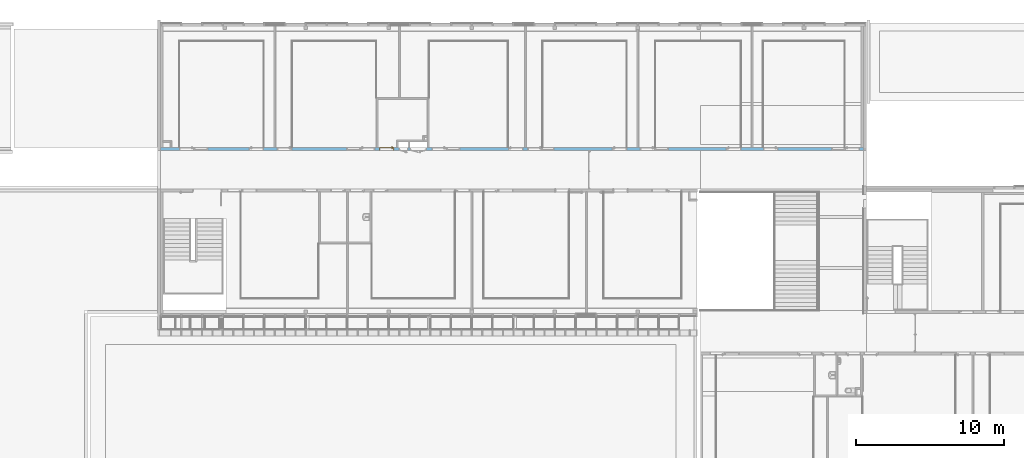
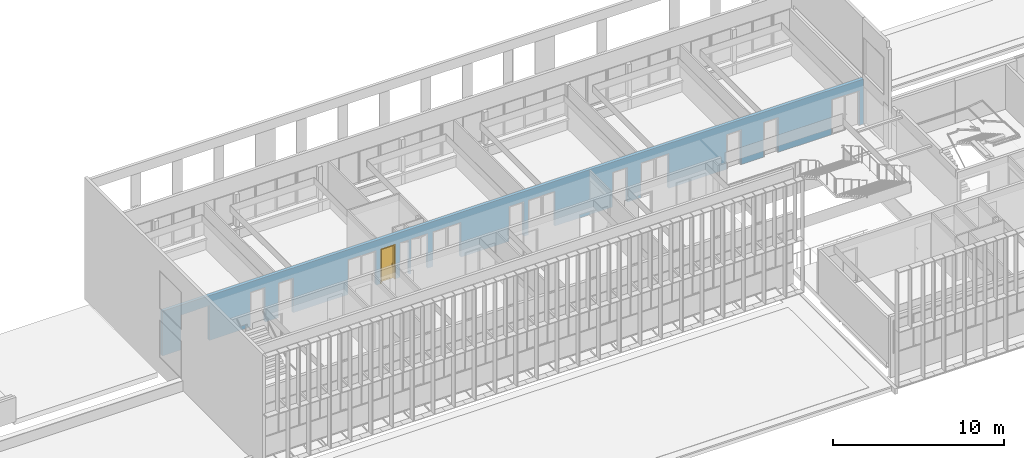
# One storey, part 52 of 106: 1 door, 21 openings, plus 1 element that does not belong to this part.
"""IFC2X3 building model written with IfcOpenShell, lengths in centimetres."""

from ifc_helpers import new_model, entity, si_unit, converted_unit, derived_unit, direction, frame, frame_2d, origin, place, context, subcontext, project, spatial, polyline, rectangle, extrude, clip, bounded_halfspace, faceted_brep, source, transform, mapped, material, material_list, layer, layer_set, layer_usage, type_object, type_shapes, element, fill, save


model = new_model("IFC2X3")

# Units and contexts
model_context = context("Model", 3, precision=0.001, world=origin(), true_north=direction((6.12303176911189e-17, 1.0)))
body_context = subcontext(model_context, "Body", "Model", "MODEL_VIEW")
ifc_project = project(units=[si_unit("LENGTHUNIT", "METRE", prefix="CENTI"), si_unit("AREAUNIT", "SQUARE_METRE"), si_unit("VOLUMEUNIT", "CUBIC_METRE"), converted_unit("PLANEANGLEUNIT", "DEGREE", entity("IfcRatioMeasure", 0.0174532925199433), si_unit("PLANEANGLEUNIT", "RADIAN"), dimensions=[0, 0, 0, 0, 0, 0, 0]), si_unit("MASSUNIT", "GRAM", prefix="KILO"), derived_unit("MASSDENSITYUNIT", [(si_unit("MASSUNIT", "GRAM", prefix="KILO"), 1), (si_unit("LENGTHUNIT", "METRE"), -3)]), si_unit("TIMEUNIT", "SECOND"), si_unit("FREQUENCYUNIT", "HERTZ"), si_unit("THERMODYNAMICTEMPERATUREUNIT", "DEGREE_CELSIUS"), derived_unit("THERMALTRANSMITTANCEUNIT", [(si_unit("MASSUNIT", "GRAM", prefix="KILO"), 1), (si_unit("THERMODYNAMICTEMPERATUREUNIT", "KELVIN"), -1), (si_unit("TIMEUNIT", "SECOND"), -3)]), derived_unit("VOLUMETRICFLOWRATEUNIT", [(si_unit("LENGTHUNIT", "METRE"), 3), (si_unit("TIMEUNIT", "SECOND"), -1)]), si_unit("ELECTRICCURRENTUNIT", "AMPERE"), si_unit("ELECTRICVOLTAGEUNIT", "VOLT"), si_unit("POWERUNIT", "WATT"), si_unit("FORCEUNIT", "NEWTON", prefix="KILO"), si_unit("ILLUMINANCEUNIT", "LUX"), si_unit("LUMINOUSFLUXUNIT", "LUMEN"), si_unit("LUMINOUSINTENSITYUNIT", "CANDELA"), derived_unit("USERDEFINED", [(si_unit("MASSUNIT", "GRAM", prefix="KILO"), -1), (si_unit("LENGTHUNIT", "METRE"), -2), (si_unit("TIMEUNIT", "SECOND"), 3), (si_unit("LUMINOUSFLUXUNIT", "LUMEN"), 1)]), derived_unit("LINEARVELOCITYUNIT", [(si_unit("LENGTHUNIT", "METRE"), 1), (si_unit("TIMEUNIT", "SECOND"), -1)]), si_unit("PRESSUREUNIT", "PASCAL"), derived_unit("USERDEFINED", [(si_unit("LENGTHUNIT", "METRE"), -2), (si_unit("MASSUNIT", "GRAM", prefix="KILO"), 1), (si_unit("TIMEUNIT", "SECOND"), -2)])], contexts=[model_context])

# Site, building, storey
site_placement = place(None, frame((-2781.94577612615, 7442.24238424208, 0.0)))
site = spatial("IfcSite", under=ifc_project, at=site_placement, Name="Default", CompositionType="ELEMENT")
building_placement = place(site_placement, origin())
building = spatial("IfcBuilding", under=site, at=building_placement, CompositionType="ELEMENT")
storey_placement = place(building_placement, frame((0.0, 0.0, 422.0)))
storey = spatial("IfcBuildingStorey", under=building, at=storey_placement, Name="Toiture - Cuisine", CompositionType="ELEMENT", Elevation=421.999999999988)

# Wall, openings, door
ifc_material_1 = material(Name="01 - Maçonnerie")
ifc_layer = layer(ifc_material_1, 20.0)
ifc_layer_set = layer_set([ifc_layer], Name="Mur de base:04 - Structure - béton - 20cm")
ifc_layer_usage = layer_usage(ifc_layer_set, "AXIS2", "NEGATIVE", 10.0)
wall_type = type_object("IfcWallType", Name="Mur de base:04 - Structure - béton - 20cm", PredefinedType="STANDARD", material=ifc_layer_set)
wall_placement = place(building_placement, frame((-8409.49987766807, -820.048500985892, 422.0)))
wall = element("IfcWallStandardCase", 1, at=wall_placement, inside=storey, type_object=wall_type, material=ifc_layer_usage, Name="Mur de base:04 - Structure - béton - 20cm", ObjectType="Mur de base:04 - Structure - béton - 20cm", context=body_context, shape_type="Clipping", body=[
    clip(extrude(rectangle(XDim=4741.49999798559, YDim=20.0, at=frame_2d((2370.74999899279, 2.04281036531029e-14), x_axis=(-1.0, 0.0))), origin(), (0.0, 0.0, 1.0), 321.0), bounded_halfspace(frame((4741.49999798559, -10.0, 321.0), z_axis=(0.0, 0.0, -1.0), x_axis=(0.0, 1.0, 0.0)), True, frame((4741.49999798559, -10.0, 321.0)), polyline([(0.0, 0.0), (0.0, 20.0), (-15.3000000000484, 20.0), (-125.300000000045, 20.0), (-127.300000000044, 20.0), (-675.800000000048, 20.0), (-677.800000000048, 20.0), (-745.800000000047, 20.0), (-755.800000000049, 20.0), (-825.800000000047, 20.0), (-827.800000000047, 20.0), (-1403.80000000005, 20.0), (-1405.80000000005, 20.0), (-1516.49999791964, 20.0), (-1526.49999791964, 20.0), (-1595.78709704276, 20.0), (-1597.78709704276, 20.0), (-2163.80000000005, 20.0), (-2165.80000000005, 20.0), (-2275.80000000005, 20.0), (-2285.80000000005, 20.0), (-2395.80000000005, 20.0), (-2397.80000000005, 20.0), (-2931.80000000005, 20.0), (-2941.80000000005, 20.0), (-3060.80000000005, 20.0), (-3070.80000000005, 20.0), (-3137.80000000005, 20.0), (-3147.80000000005, 20.0), (-3275.80000000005, 20.0), (-3285.80000000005, 20.0), (-3416.49999791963, 20.0), (-3535.80000000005, 20.0), (-3545.80000000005, 20.0), (-3611.80000000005, 20.0), (-3853.80000000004, 20.0), (-3855.80000000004, 20.0), (-3965.80000000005, 20.0), (-3975.80000000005, 20.0), (-4044.30000000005, 20.0), (-4046.30000000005, 20.0), (-4614.19999798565, 20.0), (-4616.19999798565, 20.0), (-4666.19999798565, 20.0), (-4676.19999798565, 20.0), (-4726.19999798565, 20.0), (-4741.49999798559, 20.0), (-4741.49999798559, 0.0), (-1854.0, 0.0), (-1844.0, 0.0), (-1840.0, 0.0), (0.0, 0.0)]))),
])
opening_1_placement = place(wall_placement, frame((1669.50000006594, 10.0, 0.0)))
element("IfcOpeningElement", 2, at=opening_1_placement, cuts=wall, Name="Int. Simple:PP Placard (0.55m x 2.50m):1", ObjectType="Opening", context=body_context, shape_type="SweptSolid", body=[
    extrude(rectangle(XDim=248.500000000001, YDim=61.9999999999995, at=frame_2d((124.250000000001, 30.9999999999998), x_axis=(1.0, 0.0))), frame((0.0, 0.0, 0.0), z_axis=(0.0, -1.0, 0.0), x_axis=(0.0, 0.0, 1.0)), (0.0, 0.0, 1.0), 20.0),
])
opening_2_placement = place(wall_placement, frame((1794.50000006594, 10.0, 0.0)))
element("IfcOpeningElement", 3, at=opening_2_placement, cuts=wall, Name="Int. Double:PP Placard (1.05m x 2.50m):1", ObjectType="Opening", context=body_context, shape_type="SweptSolid", body=[
    extrude(rectangle(XDim=248.500000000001, YDim=112.0, at=frame_2d((124.250000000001, 56.0000000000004), x_axis=(1.0, 0.0))), frame((0.0, 0.0, 0.0), z_axis=(0.0, -1.0, 0.0), x_axis=(0.0, 0.0, 1.0)), (0.0, 0.0, 1.0), 20.0),
])
opening_3_placement = place(wall_placement, frame((126.799999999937, -10.0, 0.0)))
element("IfcOpeningElement", 4, at=opening_3_placement, cuts=wall, Name="Int. Simple:PV (0.93m x 2.50m):1", ObjectType="Opening", context=body_context, shape_type="SweptSolid", body=[
    extrude(rectangle(XDim=248.500000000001, YDim=99.9999999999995, at=frame_2d((124.250000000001, 50.0), x_axis=(1.0, 0.0))), frame((0.0, 0.0, 0.0), z_axis=(0.0, 1.0, 0.0), x_axis=(0.0, 0.0, 1.0)), (0.0, 0.0, 1.0), 20.0),
])
opening_4_placement = place(wall_placement, frame((595.699997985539, -10.0, 0.0)))
element("IfcOpeningElement", 5, at=opening_4_placement, cuts=wall, Name="Int. Simple:PV (0.93m x 2.50m):1", ObjectType="Opening", context=body_context, shape_type="SweptSolid", body=[
    extrude(rectangle(XDim=248.500000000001, YDim=99.9999999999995, at=frame_2d((124.250000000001, 49.9999999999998), x_axis=(1.0, 0.0))), frame((0.0, 0.0, 0.0), z_axis=(0.0, 1.0, 0.0), x_axis=(0.0, 0.0, 1.0)), (0.0, 0.0, 1.0), 20.0),
])
opening_5_placement = place(wall_placement, frame((785.699997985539, -10.0, 0.0)))
element("IfcOpeningElement", 6, at=opening_5_placement, cuts=wall, Name="Int. Simple:PV (0.93m x 2.50m):1", ObjectType="Opening", context=body_context, shape_type="SweptSolid", body=[
    extrude(rectangle(XDim=248.500000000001, YDim=99.9999999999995, at=frame_2d((124.250000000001, 50.0), x_axis=(1.0, 0.0))), frame((0.0, 0.0, 0.0), z_axis=(0.0, 1.0, 0.0), x_axis=(0.0, 0.0, 1.0)), (0.0, 0.0, 1.0), 20.0),
])
opening_6_placement = place(wall_placement, frame((1345.69999798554, -10.0, 0.0)))
element("IfcOpeningElement", 7, at=opening_6_placement, cuts=wall, Name="Int. Simple:PV (0.93m x 2.50m):1", ObjectType="Opening", context=body_context, shape_type="SweptSolid", body=[
    extrude(rectangle(XDim=248.500000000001, YDim=99.9999999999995, at=frame_2d((124.250000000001, 49.9999999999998), x_axis=(1.0, 0.0))), frame((0.0, 0.0, 0.0), z_axis=(0.0, 1.0, 0.0), x_axis=(0.0, 0.0, 1.0)), (0.0, 0.0, 1.0), 20.0),
])
opening_7_placement = place(wall_placement, frame((1475.69999798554, -10.0, 0.0)))
opening_7 = element("IfcOpeningElement", 8, at=opening_7_placement, cuts=wall, Name="Int. Simple:PP simple (0.93m x 2.50m):1", ObjectType="Opening", context=body_context, shape_type="SweptSolid", body=[
    extrude(rectangle(XDim=248.500000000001, YDim=99.9999999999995, at=frame_2d((124.250000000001, 50.0), x_axis=(1.0, 0.0))), frame((0.0, 0.0, 0.0), z_axis=(0.0, 1.0, 0.0), x_axis=(0.0, 0.0, 1.0)), (0.0, 0.0, 1.0), 20.0),
])
opening_8_placement = place(wall_placement, frame((1829.69999798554, -10.0, 0.0)))
element("IfcOpeningElement", 9, at=opening_8_placement, cuts=wall, Name="Int. Simple:PV (0.93m x 2.50m):1", ObjectType="Opening", context=body_context, shape_type="SweptSolid", body=[
    extrude(rectangle(XDim=248.500000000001, YDim=99.9999999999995, at=frame_2d((124.250000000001, 50.0), x_axis=(1.0, 0.0))), frame((0.0, 0.0, 0.0), z_axis=(0.0, 1.0, 0.0), x_axis=(0.0, 0.0, 1.0)), (0.0, 0.0, 1.0), 20.0),
])
opening_9_placement = place(wall_placement, frame((2345.69999798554, -10.0, 0.0)))
element("IfcOpeningElement", 10, at=opening_9_placement, cuts=wall, Name="Int. Simple:PV (0.93m x 2.50m):1", ObjectType="Opening", context=body_context, shape_type="SweptSolid", body=[
    extrude(rectangle(XDim=248.500000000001, YDim=99.9999999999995, at=frame_2d((124.250000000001, 49.9999999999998), x_axis=(1.0, 0.0))), frame((0.0, 0.0, 0.0), z_axis=(0.0, 1.0, 0.0), x_axis=(0.0, 0.0, 1.0)), (0.0, 0.0, 1.0), 20.0),
])
opening_10_placement = place(wall_placement, frame((2475.69999798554, -10.0, 0.0)))
element("IfcOpeningElement", 11, at=opening_10_placement, cuts=wall, Name="Int. Simple:PV (0.93m x 2.50m):1", ObjectType="Opening", context=body_context, shape_type="SweptSolid", body=[
    extrude(rectangle(XDim=248.500000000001, YDim=99.9999999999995, at=frame_2d((124.250000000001, 50.0), x_axis=(1.0, 0.0))), frame((0.0, 0.0, 0.0), z_axis=(0.0, 1.0, 0.0), x_axis=(0.0, 0.0, 1.0)), (0.0, 0.0, 1.0), 20.0),
])
opening_11_placement = place(wall_placement, frame((3045.69999798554, -10.0, 0.0)))
element("IfcOpeningElement", 12, at=opening_11_placement, cuts=wall, Name="Int. Simple:PV (0.93m x 2.50m):1", ObjectType="Opening", context=body_context, shape_type="SweptSolid", body=[
    extrude(rectangle(XDim=248.500000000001, YDim=99.9999999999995, at=frame_2d((124.250000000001, 49.9999999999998), x_axis=(1.0, 0.0))), frame((0.0, 0.0, 0.0), z_axis=(0.0, 1.0, 0.0), x_axis=(0.0, 0.0, 1.0)), (0.0, 0.0, 1.0), 20.0),
])
opening_12_placement = place(wall_placement, frame((3235.69999798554, -10.0, 0.0)))
element("IfcOpeningElement", 13, at=opening_12_placement, cuts=wall, Name="Int. Simple:PV (0.93m x 2.50m):1", ObjectType="Opening", context=body_context, shape_type="SweptSolid", body=[
    extrude(rectangle(XDim=248.500000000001, YDim=99.9999999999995, at=frame_2d((124.250000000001, 50.0), x_axis=(1.0, 0.0))), frame((0.0, 0.0, 0.0), z_axis=(0.0, 1.0, 0.0), x_axis=(0.0, 0.0, 1.0)), (0.0, 0.0, 1.0), 20.0),
])
opening_13_placement = place(wall_placement, frame((3815.69999798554, -10.0, 0.0)))
element("IfcOpeningElement", 14, at=opening_13_placement, cuts=wall, Name="Int. Simple:PV (0.93m x 2.50m):1", ObjectType="Opening", context=body_context, shape_type="SweptSolid", body=[
    extrude(rectangle(XDim=248.500000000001, YDim=99.9999999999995, at=frame_2d((124.250000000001, 49.9999999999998), x_axis=(1.0, 0.0))), frame((0.0, 0.0, 0.0), z_axis=(0.0, 1.0, 0.0), x_axis=(0.0, 0.0, 1.0)), (0.0, 0.0, 1.0), 20.0),
])
opening_14_placement = place(wall_placement, frame((4065.69999798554, -10.0, 0.0)))
element("IfcOpeningElement", 15, at=opening_14_placement, cuts=wall, Name="Int. Simple:PV (0.93m x 2.50m):1", ObjectType="Opening", context=body_context, shape_type="SweptSolid", body=[
    extrude(rectangle(XDim=248.500000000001, YDim=99.9999999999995, at=frame_2d((124.250000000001, 50.0), x_axis=(1.0, 0.0))), frame((0.0, 0.0, 0.0), z_axis=(0.0, 1.0, 0.0), x_axis=(0.0, 0.0, 1.0)), (0.0, 0.0, 1.0), 20.0),
])
opening_15_placement = place(wall_placement, frame((4616.19999798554, -10.0, 0.0)))
element("IfcOpeningElement", 16, at=opening_15_placement, cuts=wall, Name="Int. Simple:PV (0.93m x 2.50m):1", ObjectType="Opening", context=body_context, shape_type="SweptSolid", body=[
    extrude(rectangle(XDim=248.500000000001, YDim=99.9999999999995, at=frame_2d((124.250000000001, 49.9999999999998), x_axis=(1.0, 0.0))), frame((0.0, 0.0, 0.0), z_axis=(0.0, 1.0, 0.0), x_axis=(0.0, 0.0, 1.0)), (0.0, 0.0, 1.0), 20.0),
])
opening_16_placement = place(wall_placement, frame((1255.69999798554, -10.0, 0.0)))
element("IfcOpeningElement", 17, at=opening_16_placement, cuts=wall, Name="châssis intérieur vitré:châssis intérieur vitré (h=270) R+1:1", ObjectType="Opening", context=body_context, shape_type="SweptSolid", body=[
    extrude(rectangle(XDim=250.0, YDim=89.9999999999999, at=frame_2d((125.0, 45.0), x_axis=(1.0, 0.0))), frame((0.0, 0.0, 0.0), z_axis=(0.0, 1.0, 0.0), x_axis=(0.0, 0.0, 1.0)), (0.0, 0.0, 1.0), 20.0),
])
opening_17_placement = place(wall_placement, frame((1929.69999798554, -10.0, 0.0)))
element("IfcOpeningElement", 18, at=opening_17_placement, cuts=wall, Name="châssis intérieur vitré:châssis intérieur vitré (h=270) R+1:1", ObjectType="Opening", context=body_context, shape_type="SweptSolid", body=[
    extrude(rectangle(XDim=250.0, YDim=89.9999999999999, at=frame_2d((125.0, 45.0), x_axis=(1.0, 0.0))), frame((0.0, 0.0, 0.0), z_axis=(0.0, 1.0, 0.0), x_axis=(0.0, 0.0, 1.0)), (0.0, 0.0, 1.0), 20.0),
])
opening_18_placement = place(wall_placement, frame((4526.19999798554, -10.0, 0.0)))
element("IfcOpeningElement", 19, at=opening_18_placement, cuts=wall, Name="châssis intérieur vitré:châssis intérieur vitré (h=270) R+1:1", ObjectType="Opening", context=body_context, shape_type="SweptSolid", body=[
    extrude(rectangle(XDim=250.0, YDim=89.9999999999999, at=frame_2d((125.0, 45.0000000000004), x_axis=(1.0, 0.0))), frame((0.0, 0.0, 0.0), z_axis=(0.0, 1.0, 0.0), x_axis=(0.0, 0.0, 1.0)), (0.0, 0.0, 1.0), 20.0),
])
opening_19_placement = place(wall_placement, frame((3335.69999798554, -10.0, 0.0)))
element("IfcOpeningElement", 20, at=opening_19_placement, cuts=wall, Name="châssis intérieur vitré:châssis intérieur vitré (h=270) R+1:1", ObjectType="Opening", context=body_context, shape_type="SweptSolid", body=[
    extrude(rectangle(XDim=250.0, YDim=89.9999999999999, at=frame_2d((125.0, 45.0000000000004), x_axis=(1.0, 0.0))), frame((0.0, 0.0, 0.0), z_axis=(0.0, 1.0, 0.0), x_axis=(0.0, 0.0, 1.0)), (0.0, 0.0, 1.0), 20.0),
])
opening_20_placement = place(wall_placement, frame((2565.69999798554, -10.0, 0.0)))
element("IfcOpeningElement", 21, at=opening_20_placement, cuts=wall, Name="châssis intérieur vitré:châssis intérieur vitré (h=270) R+1:1", ObjectType="Opening", context=body_context, shape_type="SweptSolid", body=[
    extrude(rectangle(XDim=250.0, YDim=89.9999999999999, at=frame_2d((125.0, 45.0000000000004), x_axis=(1.0, 0.0))), frame((0.0, 0.0, 0.0), z_axis=(0.0, 1.0, 0.0), x_axis=(0.0, 0.0, 1.0)), (0.0, 0.0, 1.0), 20.0),
])
opening_21_placement = place(wall_placement, frame((226.799999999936, -10.0, 0.0)))
element("IfcOpeningElement", 22, at=opening_21_placement, cuts=wall, Name="châssis intérieur vitré:châssis intérieur vitré (h=270) R+1:1", ObjectType="Opening", context=body_context, shape_type="SweptSolid", body=[
    extrude(rectangle(XDim=250.0, YDim=91.4999999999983, at=frame_2d((125.0, 45.7499999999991), x_axis=(1.0, 0.0))), frame((0.0, 0.0, 0.0), z_axis=(0.0, 1.0, 0.0), x_axis=(0.0, 0.0, 1.0)), (0.0, 0.0, 1.0), 20.0),
])
ifc_material_2 = material(Name="Finition Peinture - Blanc satiné")
ifc_material_3 = material(Name="Bois - Panneau de porte")
ifc_material_4 = material(Name="Bois - Cadre de porte")
ifc_material_list_1 = material_list([ifc_material_2, ifc_material_3, ifc_material_4])
ifc_material_list_2 = material_list([ifc_material_2, ifc_material_3, ifc_material_4])
door_style = type_object("IfcDoorStyle", Name="PP simple (0.93m x 2.50m)", ConstructionType="NOTDEFINED", OperationType="SINGLE_SWING_LEFT", ParameterTakesPrecedence=False, Sizeable=False, material=ifc_material_list_2)
shared_shape = source(origin(), body_context, "Body", "Brep", [
    faceted_brep([(10.5352761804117, -0.500000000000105, 86.6003983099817), (11.5000000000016, -0.500000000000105, 87.0), (11.5000000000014, -0.500000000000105, 108.0), (10.5352761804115, -0.500000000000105, 108.399601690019), (9.50000000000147, -0.500000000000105, 108.535898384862), (8.46472381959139, -0.500000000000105, 108.399601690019), (7.50000000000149, -0.500000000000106, 108.0), (7.50000000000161, -0.500000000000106, 87.0), (8.46472381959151, -0.500000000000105, 86.6003983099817), (9.50000000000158, -0.500000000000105, 86.464101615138), (10.5352761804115, 0.0, 108.399601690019), (11.5000000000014, 0.0, 108.0), (11.5000000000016, 0.0, 87.0), (10.5352761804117, 0.0, 86.6003983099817), (9.50000000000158, 0.0, 86.464101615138), (8.46472381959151, 0.0, 86.6003983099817), (7.50000000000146, 0.0, 87.0), (7.50000000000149, 0.0, 108.0), (8.46472381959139, 0.0, 108.399601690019), (9.50000000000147, 0.0, 108.535898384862)], [[[0, 1, 2, 3, 4, 5, 6, 7, 8, 9]], [[10, 11, 12, 13, 14, 15, 16, 17, 18, 19]], [[16, 15, 8, 7]], [[8, 15, 14, 9]], [[14, 13, 0, 9]], [[13, 12, 1, 0]], [[2, 1, 12, 11]], [[11, 10, 3, 2]], [[3, 10, 19, 4]], [[19, 18, 5, 4]], [[18, 17, 6, 5]], [[7, 6, 17, 16]]]),
    faceted_brep([(10.5352761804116, 4.0, 86.6003983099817), (11.5000000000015, 4.0, 87.0), (11.5000000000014, 4.0, 108.0), (10.5352761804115, 4.0, 108.399601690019), (9.50000000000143, 4.0, 108.535898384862), (8.46472381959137, 4.0, 108.399601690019), (7.50000000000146, 4.0, 108.0), (7.50000000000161, 4.0, 87.0), (8.46472381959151, 4.0, 86.6003983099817), (9.50000000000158, 4.0, 86.464101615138), (10.5352761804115, 4.49999999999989, 108.399601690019), (11.5000000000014, 4.49999999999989, 108.0), (11.5000000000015, 4.49999999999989, 87.0), (10.5352761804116, 4.49999999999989, 86.6003983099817), (9.50000000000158, 4.49999999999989, 86.464101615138), (8.46472381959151, 4.49999999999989, 86.6003983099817), (7.50000000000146, 4.49999999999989, 87.0), (7.50000000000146, 4.49999999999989, 108.0), (8.46472381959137, 4.49999999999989, 108.399601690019), (9.50000000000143, 4.49999999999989, 108.535898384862)], [[[0, 1, 2, 3, 4, 5, 6, 7, 8, 9]], [[10, 11, 12, 13, 14, 15, 16, 17, 18, 19]], [[11, 10, 3, 2]], [[3, 10, 19, 4]], [[19, 18, 5, 4]], [[18, 17, 6, 5]], [[7, 6, 17, 16]], [[16, 15, 8, 7]], [[8, 15, 14, 9]], [[14, 13, 0, 9]], [[13, 12, 1, 0]], [[2, 1, 12, 11]]]),
    faceted_brep([(9.29747013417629, -0.500000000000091, 100.778044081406), (9.70252986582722, -0.500000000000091, 100.778044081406), (10.1000000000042, -0.500000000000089, 100.699999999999), (10.1000000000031, -0.500000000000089, 99.3000000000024), (9.7025298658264, -0.500000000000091, 99.2219559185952), (9.29747013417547, -0.500000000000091, 99.221955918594), (8.8999999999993, -0.500000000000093, 99.2999999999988), (8.89999999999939, -0.500000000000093, 100.7), (8.89999999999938, -3.26509507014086, 100.7), (9.29747013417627, -3.10045754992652, 100.778044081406), (10.9023585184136, -4.70534593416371, 100.778044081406), (11.0701397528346, -4.30028620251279, 100.778044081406), (9.7025298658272, -2.93267631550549, 100.778044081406), (10.1000000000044, -2.76803879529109, 100.7), (10.1000000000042, -2.76803879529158, 99.3000000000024), (9.7025298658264, -2.93267631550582, 99.2219559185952), (11.0701397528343, -4.30028620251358, 99.2219559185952), (10.9023585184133, -4.70534593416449, 99.221955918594), (9.29747013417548, -3.10045754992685, 99.221955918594), (8.89999999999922, -3.26509507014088, 99.2999999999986), (10.7377209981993, -5.10281606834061, 100.7), (11.2347772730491, -3.90281606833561, 100.7), (11.2347772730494, -3.90281606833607, 99.3000000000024), (10.7377209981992, -5.10281606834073, 99.2999999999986), (19.5018640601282, -5.1028160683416, 99.2999999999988), (19.5018640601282, -4.70534593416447, 99.221955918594), (19.5018640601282, -4.30028620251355, 99.2219559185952), (19.5018640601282, -3.90281606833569, 99.3000000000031), (19.5018640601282, -3.90281606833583, 100.7), (19.5018640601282, -4.30028620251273, 100.778044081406), (19.5018640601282, -4.70534593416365, 100.778044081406), (19.5018640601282, -5.10281606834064, 100.699999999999), (14.7307697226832, -5.10281606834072, 100.7), (15.2860019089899, -4.5028160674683, 100.78786867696), (15.3683206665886, -3.9028160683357, 100.7), (15.3683206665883, -3.90281606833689, 99.3000000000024), (15.2860018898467, -4.50281607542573, 99.2121313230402), (14.7307700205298, -5.10281606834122, 99.2999999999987)], [[[0, 1, 2, 3, 4, 5, 6, 7]], [[8, 9, 0, 7]], [[9, 10, 11, 12, 1, 0]], [[12, 13, 2, 1]], [[3, 2, 13, 14]], [[14, 15, 4, 3]], [[15, 16, 17, 18, 5, 4]], [[18, 19, 6, 5]], [[7, 6, 19, 8]], [[20, 10, 9, 8]], [[11, 21, 13, 12]], [[14, 13, 21, 22]], [[22, 16, 15, 14]], [[17, 23, 19, 18]], [[8, 19, 23, 20]], [[24, 25, 26, 27, 28, 29, 30, 31]], [[32, 30, 33]], [[31, 30, 32]], [[10, 20, 32]], [[33, 34, 11]], [[21, 11, 34]], [[34, 29, 28]], [[30, 29, 33]], [[29, 34, 33]], [[10, 32, 33]], [[10, 33, 11]], [[22, 21, 34, 28, 27, 35]], [[35, 26, 36]], [[37, 36, 25]], [[22, 35, 16]], [[35, 27, 26]], [[24, 37, 25]], [[23, 17, 37]], [[37, 17, 36]], [[17, 16, 36]], [[16, 35, 36]], [[25, 36, 26]], [[20, 23, 37, 24, 31, 32]]]),
    faceted_brep([(9.29747013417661, 4.49999999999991, 100.778044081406), (8.89999999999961, 4.4999999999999, 100.7), (8.89999999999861, 4.4999999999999, 99.2999999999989), (9.29747013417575, 4.49999999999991, 99.221955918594), (9.70252986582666, 4.49999999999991, 99.2219559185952), (10.1000000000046, 4.49999999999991, 99.3000000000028), (10.1000000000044, 4.49999999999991, 100.7), (9.70252986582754, 4.49999999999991, 100.778044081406), (10.1000000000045, 6.7485204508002, 99.3000000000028), (10.1000000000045, 6.74852045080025, 100.7), (9.70252986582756, 6.91315797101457, 100.778044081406), (11.083890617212, 8.29451872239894, 100.778044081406), (10.916109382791, 8.69957845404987, 100.778044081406), (9.29747013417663, 7.0809392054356, 100.778044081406), (8.89999999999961, 7.24557672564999, 100.7), (8.89999999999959, 7.2455767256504, 99.2999999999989), (9.29747013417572, 7.08093920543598, 99.221955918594), (10.9161093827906, 8.69957845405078, 99.221955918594), (11.0838906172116, 8.29451872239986, 99.2219559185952), (9.70252986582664, 6.91315797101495, 99.2219559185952), (11.2485281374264, 7.89704858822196, 99.3000000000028), (11.2485281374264, 7.89704858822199, 100.7), (10.7514718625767, 9.09704858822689, 100.7), (10.7514718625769, 9.0970485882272, 99.2999999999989), (19.5045783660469, 7.89704858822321, 99.3000000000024), (19.5045783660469, 8.29451872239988, 99.2219559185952), (19.5045783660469, 8.6995784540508, 99.221955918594), (19.5045783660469, 9.09704858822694, 99.2999999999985), (19.5045783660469, 9.09704858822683, 100.7), (19.5045783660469, 8.69957845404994, 100.778044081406), (19.5045783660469, 8.29451872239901, 100.778044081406), (19.5045783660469, 7.89704858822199, 100.7), (15.3765520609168, 7.89704858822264, 99.3000000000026), (15.3765532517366, 7.89704858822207, 100.7), (15.294234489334, 8.49704858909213, 100.78786867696), (14.7445205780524, 9.09704858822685, 100.7), (14.7445204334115, 9.09704858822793, 99.2999999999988), (15.2942345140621, 8.49704858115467, 99.2121313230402)], [[[0, 1, 2, 3, 4, 5, 6, 7]], [[6, 5, 8, 9]], [[9, 10, 7, 6]], [[10, 11, 12, 13, 0, 7]], [[13, 14, 1, 0]], [[2, 1, 14, 15]], [[15, 16, 3, 2]], [[16, 17, 18, 19, 4, 3]], [[19, 8, 5, 4]], [[9, 8, 20, 21]], [[21, 11, 10, 9]], [[12, 22, 14, 13]], [[15, 14, 22, 23]], [[23, 17, 16, 15]], [[18, 20, 8, 19]], [[24, 25, 26, 27, 28, 29, 30, 31]], [[21, 20, 32, 24, 31, 33]], [[33, 30, 34]], [[35, 34, 29]], [[21, 33, 11]], [[33, 31, 30]], [[28, 35, 29]], [[22, 12, 35]], [[35, 12, 34]], [[12, 11, 34]], [[11, 33, 34]], [[29, 34, 30]], [[22, 35, 28, 27, 36, 23]], [[36, 26, 37]], [[27, 26, 36]], [[17, 23, 36]], [[37, 32, 18]], [[20, 18, 32]], [[32, 25, 24]], [[26, 25, 37]], [[25, 32, 37]], [[17, 36, 37]], [[17, 37, 18]]]),
    faceted_brep([(3.50000000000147, 4.0, 245.0), (96.5000000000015, 4.0, 245.0), (96.5000000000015, 4.0, 0.0), (3.50000000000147, 4.0, 0.0), (3.50000000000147, 0.0, 245.0), (3.50000000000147, 0.0, 0.0), (96.5000000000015, 0.0, 0.0), (96.5000000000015, 0.0, 245.0)], [[[0, 1, 2, 3]], [[4, 5, 6, 7]], [[1, 0, 4, 7]], [[2, 1, 7, 6]], [[3, 2, 6, 5]], [[0, 3, 5, 4]]]),
    faceted_brep([(0.0, 20.0, 0.0), (-1.50000000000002, 20.0, 0.0), (-1.50000000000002, 20.5000000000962, 0.0), (5.0, 20.5000000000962, 0.0), (5.0, 4.0, 0.0), (3.50000000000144, 4.0, 0.0), (3.50000000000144, -0.500000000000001, 0.0), (-1.50000000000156, -0.500000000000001, 0.0), (-1.50000000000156, 0.0, 0.0), (0.0, 0.0, 0.0), (0.0, 0.0, 248.500000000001), (0.0, 20.0, 248.500000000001), (100.0, 20.0, 248.500000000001), (100.0, 20.0, 0.0), (101.5, 20.0, 0.0), (101.5, 20.0, 250.0), (-1.50000000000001, 20.0, 250.0), (5.0, 20.5000000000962, 243.5), (5.0, 4.0, 243.5), (95.0, 4.0, 243.5), (95.0, 4.0, 0.0), (96.499999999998, 4.0, 0.0), (96.499999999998, 4.0, 245.0), (3.50000000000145, 4.0, 245.0), (100.0, 0.0, 248.500000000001), (100.0, 0.0, 0.0), (101.500000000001, 0.0, 0.0), (101.500000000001, -0.500000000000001, 0.0), (96.499999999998, -0.500000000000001, 0.0), (95.0, 20.5000000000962, 0.0), (101.5, 20.5000000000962, 0.0), (95.0, 20.5000000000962, 243.5), (3.50000000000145, -0.500000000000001, 245.0), (96.499999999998, -0.500000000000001, 245.0), (101.500000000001, -0.500000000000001, 250.0), (-1.50000000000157, -0.500000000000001, 250.0), (-1.50000000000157, 0.0, 250.0), (101.500000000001, 0.0, 250.0), (-1.50000000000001, 20.5000000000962, 250.0), (101.5, 20.5000000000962, 250.0)], [[[0, 1, 2, 3, 4, 5, 6, 7, 8, 9]], [[0, 9, 10, 11]], [[1, 0, 11, 12, 13, 14, 15, 16]], [[3, 17, 18, 4]], [[5, 4, 18, 19, 20, 21, 22, 23]], [[12, 24, 25, 13]], [[13, 25, 26, 27, 28, 21, 20, 29, 30, 14]], [[19, 31, 29, 20]], [[11, 10, 24, 12]], [[18, 17, 31, 19]], [[5, 23, 32, 6]], [[7, 6, 32, 33, 28, 27, 34, 35]], [[8, 7, 35, 36]], [[9, 8, 36, 37, 26, 25, 24, 10]], [[2, 1, 16, 38]], [[3, 2, 38, 39, 30, 29, 31, 17]], [[33, 22, 21, 28]], [[37, 34, 27, 26]], [[39, 15, 14, 30]], [[32, 23, 22, 33]], [[36, 35, 34, 37]], [[38, 16, 15, 39]]]),
])
type_shapes(door_style, [shared_shape])
door_placement = place(opening_7_placement, frame((100.0, 20.0, 0.0), z_axis=(0.0, 0.0, 1.0), x_axis=(-1.0, 0.0, 0.0)))
door = element("IfcDoor", 23, at=door_placement, inside=storey, type_object=door_style, material=ifc_material_list_1, Name="Int. Simple:PP simple (0.93m x 2.50m)", ObjectType="Int. Simple:PP simple (0.93m x 2.50m)", OverallHeight=248.500000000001, OverallWidth=99.9999999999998, context=body_context, shape_type="MappedRepresentation", body=[
    mapped(shared_shape, transform((0.0, 0.0, 0.0), scale=1.0)),
])
fill(opening_7, door)

save(model, "model.ifc")
